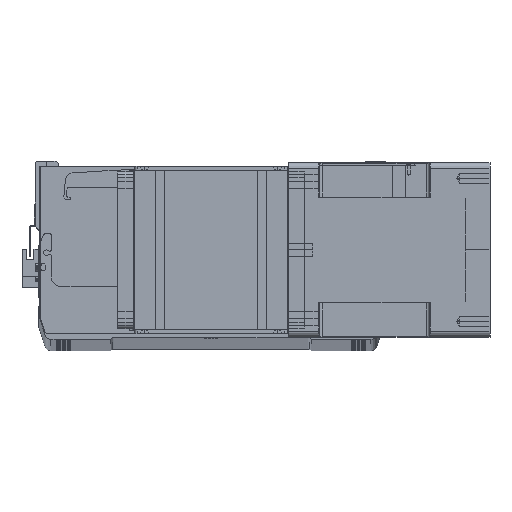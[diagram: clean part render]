
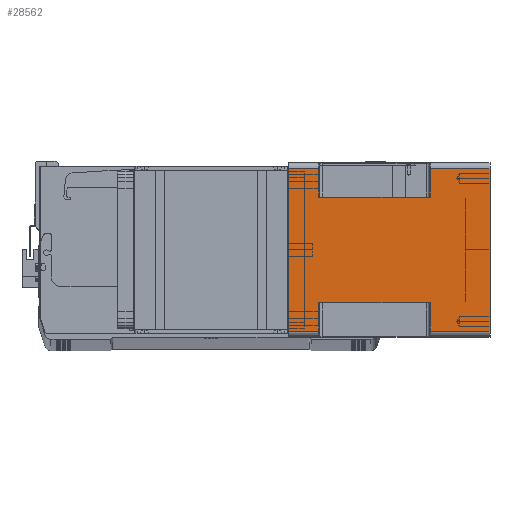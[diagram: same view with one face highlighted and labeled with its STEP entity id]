
A CAD part, top view. The second image highlights one B-rep face of the part: STEP entity #28562.
In plain terms, the highlighted planar face has unit normal (0, 0, 1) as drawn and (1, 0, 0) by its records, which use the part's own axes.
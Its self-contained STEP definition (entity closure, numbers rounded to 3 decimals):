
#51 = CARTESIAN_POINT ( 'NONE',  ( 71., 66., -164. ) ) ;
#136 = ORIENTED_EDGE ( 'NONE', *, *, #11643, .T. ) ;
#217 = CARTESIAN_POINT ( 'NONE',  ( 71., -66., -164. ) ) ;
#784 = VERTEX_POINT ( 'NONE', #24219 ) ;
#1081 = VECTOR ( 'NONE', #21964, 1000. ) ;
#1116 = DIRECTION ( 'NONE',  ( 0., 1., 0. ) ) ;
#1899 = DIRECTION ( 'NONE',  ( 0., 1., 0. ) ) ;
#2207 = ORIENTED_EDGE ( 'NONE', *, *, #16686, .T. ) ;
#2578 = CARTESIAN_POINT ( 'NONE',  ( 71., 43., -115.5 ) ) ;
#2710 = VERTEX_POINT ( 'NONE', #29002 ) ;
#3364 = LINE ( 'NONE', #35925, #39087 ) ;
#3741 = VERTEX_POINT ( 'NONE', #34361 ) ;
#4261 = EDGE_CURVE ( 'NONE', #2710, #3741, #24064, .T. ) ;
#4737 = VECTOR ( 'NONE', #36531, 1000. ) ;
#4786 = CARTESIAN_POINT ( 'NONE',  ( 71., -66., -164. ) ) ;
#4989 = DIRECTION ( 'NONE',  ( 0., 0., 1. ) ) ;
#5097 = EDGE_CURVE ( 'NONE', #5909, #3741, #17066, .T. ) ;
#5110 = CARTESIAN_POINT ( 'NONE',  ( 71., -66., -164. ) ) ;
#5909 = VERTEX_POINT ( 'NONE', #38606 ) ;
#6160 = VECTOR ( 'NONE', #4989, 1000. ) ;
#6166 = PLANE ( 'NONE',  #15740 ) ;
#6524 = EDGE_CURVE ( 'NONE', #10779, #25080, #34599, .T. ) ;
#7478 = CARTESIAN_POINT ( 'NONE',  ( 71., 43., -164. ) ) ;
#8122 = DIRECTION ( 'NONE',  ( 0., 0., 1. ) ) ;
#8602 = CARTESIAN_POINT ( 'NONE',  ( 71., 43., -24.5 ) ) ;
#10779 = VERTEX_POINT ( 'NONE', #217 ) ;
#11110 = FACE_OUTER_BOUND ( 'NONE', #34942, .T. ) ;
#11643 = EDGE_CURVE ( 'NONE', #28278, #2710, #24300, .T. ) ;
#12027 = LINE ( 'NONE', #14333, #4737 ) ;
#13005 = CARTESIAN_POINT ( 'NONE',  ( 71., 66., -164. ) ) ;
#14333 = CARTESIAN_POINT ( 'NONE',  ( 71., 66., -164. ) ) ;
#14359 = ORIENTED_EDGE ( 'NONE', *, *, #30636, .T. ) ;
#14448 = CARTESIAN_POINT ( 'NONE',  ( 71., -43., -24.5 ) ) ;
#14929 = CARTESIAN_POINT ( 'NONE',  ( 71., -43., -115.5 ) ) ;
#15740 = AXIS2_PLACEMENT_3D ( 'NONE', #28085, #25599, #1116 ) ;
#16170 = EDGE_CURVE ( 'NONE', #23189, #25080, #3364, .T. ) ;
#16406 = VECTOR ( 'NONE', #8122, 1000. ) ;
#16686 = EDGE_CURVE ( 'NONE', #18460, #784, #12027, .T. ) ;
#17066 = LINE ( 'NONE', #33005, #21028 ) ;
#17120 = ORIENTED_EDGE ( 'NONE', *, *, #34974, .T. ) ;
#18460 = VERTEX_POINT ( 'NONE', #51 ) ;
#19584 = ORIENTED_EDGE ( 'NONE', *, *, #22721, .F. ) ;
#20387 = LINE ( 'NONE', #26248, #36088 ) ;
#20899 = VECTOR ( 'NONE', #26935, 1000. ) ;
#21028 = VECTOR ( 'NONE', #1899, 1000. ) ;
#21879 = VECTOR ( 'NONE', #40352, 1000. ) ;
#21964 = DIRECTION ( 'NONE',  ( 0., 0., 1. ) ) ;
#22161 = VECTOR ( 'NONE', #25282, 1000. ) ;
#22721 = EDGE_CURVE ( 'NONE', #28278, #36353, #34742, .T. ) ;
#23189 = VERTEX_POINT ( 'NONE', #14929 ) ;
#24064 = LINE ( 'NONE', #13005, #1081 ) ;
#24219 = CARTESIAN_POINT ( 'NONE',  ( 71., 66., -115.5 ) ) ;
#24300 = LINE ( 'NONE', #40091, #21879 ) ;
#24327 = LINE ( 'NONE', #4786, #20899 ) ;
#24459 = EDGE_CURVE ( 'NONE', #23189, #35029, #39966, .T. ) ;
#24514 = VERTEX_POINT ( 'NONE', #36342 ) ;
#25080 = VERTEX_POINT ( 'NONE', #26839 ) ;
#25282 = DIRECTION ( 'NONE',  ( 0., 1., 0. ) ) ;
#25599 = DIRECTION ( 'NONE',  ( 1., 0., 0. ) ) ;
#25876 = VECTOR ( 'NONE', #33111, 1000. ) ;
#26248 = CARTESIAN_POINT ( 'NONE',  ( 71., 43., -115.5 ) ) ;
#26839 = CARTESIAN_POINT ( 'NONE',  ( 71., -66., -115.5 ) ) ;
#26862 = DIRECTION ( 'NONE',  ( 0., -1., 0. ) ) ;
#26935 = DIRECTION ( 'NONE',  ( 0., 1., 0. ) ) ;
#28085 = CARTESIAN_POINT ( 'NONE',  ( 71., -66., -164. ) ) ;
#28278 = VERTEX_POINT ( 'NONE', #8602 ) ;
#28562 = ADVANCED_FACE ( 'NONE', ( #11110 ), #6166, .T. ) ;
#28909 = ORIENTED_EDGE ( 'NONE', *, *, #40577, .T. ) ;
#29002 = CARTESIAN_POINT ( 'NONE',  ( 71., 66., -24.5 ) ) ;
#29970 = DIRECTION ( 'NONE',  ( 0., -1., 0. ) ) ;
#30636 = EDGE_CURVE ( 'NONE', #24514, #35029, #34898, .T. ) ;
#30693 = ORIENTED_EDGE ( 'NONE', *, *, #24459, .F. ) ;
#32240 = ORIENTED_EDGE ( 'NONE', *, *, #4261, .T. ) ;
#33005 = CARTESIAN_POINT ( 'NONE',  ( 71., -66., 0. ) ) ;
#33111 = DIRECTION ( 'NONE',  ( 0., 0., -1. ) ) ;
#34361 = CARTESIAN_POINT ( 'NONE',  ( 71., 66., 0. ) ) ;
#34528 = ORIENTED_EDGE ( 'NONE', *, *, #16170, .T. ) ;
#34599 = LINE ( 'NONE', #5110, #6160 ) ;
#34742 = LINE ( 'NONE', #7478, #25876 ) ;
#34895 = CARTESIAN_POINT ( 'NONE',  ( 71., -43., -24.5 ) ) ;
#34898 = LINE ( 'NONE', #34895, #22161 ) ;
#34942 = EDGE_LOOP ( 'NONE', ( #30693, #34528, #35371, #17120, #2207, #28909, #19584, #136, #32240, #36153, #39638, #14359 ) ) ;
#34974 = EDGE_CURVE ( 'NONE', #10779, #18460, #24327, .T. ) ;
#35029 = VERTEX_POINT ( 'NONE', #14448 ) ;
#35371 = ORIENTED_EDGE ( 'NONE', *, *, #6524, .F. ) ;
#35870 = LINE ( 'NONE', #39029, #39278 ) ;
#35925 = CARTESIAN_POINT ( 'NONE',  ( 71., -66., -115.5 ) ) ;
#36088 = VECTOR ( 'NONE', #29970, 1000. ) ;
#36153 = ORIENTED_EDGE ( 'NONE', *, *, #5097, .F. ) ;
#36342 = CARTESIAN_POINT ( 'NONE',  ( 71., -66., -24.5 ) ) ;
#36353 = VERTEX_POINT ( 'NONE', #2578 ) ;
#36481 = CARTESIAN_POINT ( 'NONE',  ( 71., -43., -164. ) ) ;
#36531 = DIRECTION ( 'NONE',  ( 0., 0., 1. ) ) ;
#38606 = CARTESIAN_POINT ( 'NONE',  ( 71., -66., 0. ) ) ;
#38768 = DIRECTION ( 'NONE',  ( 0., 0., 1. ) ) ;
#38871 = EDGE_CURVE ( 'NONE', #24514, #5909, #35870, .T. ) ;
#39029 = CARTESIAN_POINT ( 'NONE',  ( 71., -66., -164. ) ) ;
#39087 = VECTOR ( 'NONE', #26862, 1000. ) ;
#39278 = VECTOR ( 'NONE', #38768, 1000. ) ;
#39638 = ORIENTED_EDGE ( 'NONE', *, *, #38871, .F. ) ;
#39966 = LINE ( 'NONE', #36481, #16406 ) ;
#40091 = CARTESIAN_POINT ( 'NONE',  ( 71., -66., -24.5 ) ) ;
#40352 = DIRECTION ( 'NONE',  ( 0., 1., 0. ) ) ;
#40577 = EDGE_CURVE ( 'NONE', #784, #36353, #20387, .T. ) ;
